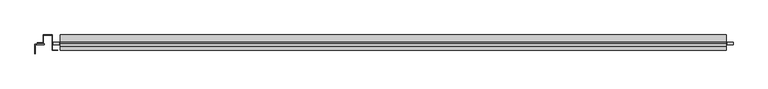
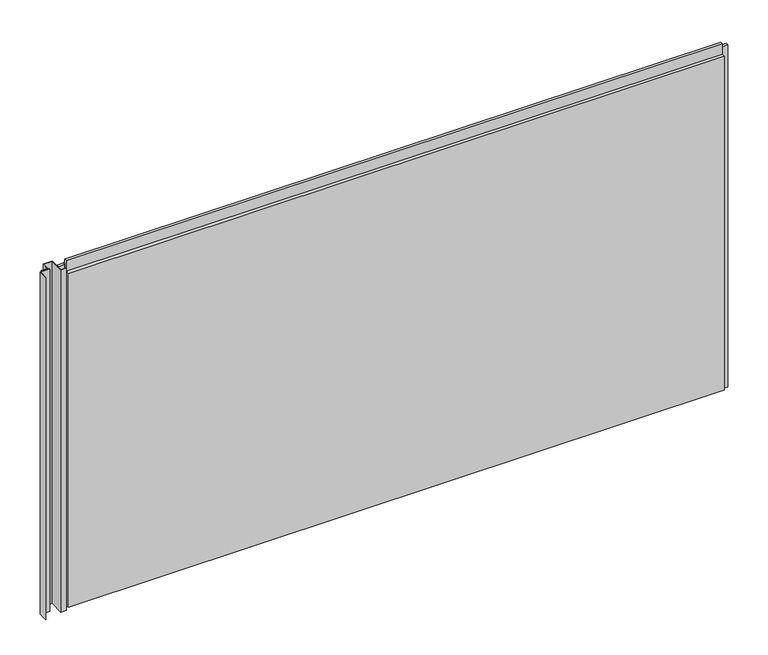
"""IFC4 building model written with IfcOpenShell, lengths in millimetres: plate geometry, Trimo_Qbiss Screen_Normal Panel-HORIZONTAL : HR - B."""

from ifc_helpers import new_model, si_unit, frame, origin, place, context, project, spatial, polyline, outline, extrude, source, transform, mapped, element, save


def plate_f7a88e82(model_context):
    return source(origin(), model_context, "Body", "SweptSolid", [
        extrude(outline(polyline([(-1059.5, 50.0), (-1059.5, 49.2), (-1077.8, 49.2), (-1077.8, 99.1967741), (-1106.2, 99.1967741), (-1106.2, 74.2), (-1126.2, 74.2), (-1126.2, 72.8), (-1112.0, 72.8), (-1112.0, 72.0), (-1127.0, 72.0), (-1127.0, 75.0), (-1107.0, 75.0), (-1107.0, 100.0), (-1077.0, 100.0), (-1077.0, 50.0), (-1059.5, 50.0)])), frame((0.0, 0.0, -1.0), z_axis=(0.0, 0.0, 1.0), x_axis=(1.0, 0.0, 0.0)), (0.0, 0.0, 1.0), 1200.0),
        extrude(outline(polyline([(-1103.0, 71.0), (-1103.0, 68.0), (-1133.2272593, 68.0), (-1133.2272593, 38.5929448), (-1134.0, 38.8), (-1134.0, 68.8), (-1103.8, 68.8), (-1103.8, 70.2), (-1127.0, 70.2), (-1127.0, 71.0), (-1103.0, 71.0)])), frame((0.0, 0.0, -1.0), z_axis=(0.0, 0.0, 1.0), x_axis=(1.0, 0.0, 0.0)), (0.0, 0.0, 1.0), 1200.0),
        extrude(outline(polyline([(-1055.0, 76.5978162), (-1055.0, 67.8978162), (-1074.0, 67.8978162), (-1074.0, 76.5978162), (-1055.0, 76.5978162)])), frame((0.0, 0.0, -1.0), z_axis=(0.0, 0.0, 1.0), x_axis=(1.0, 0.0, 0.0)), (0.0, 0.0, 1.0), 1200.0),
        extrude(outline(polyline([(1125.5, 67.8978162), (1125.5, 76.5978162), (1144.5, 76.5978162), (1144.5, 67.8978162), (1125.5, 67.8978162)])), frame((0.0, 0.0, -1.0), z_axis=(0.0, 0.0, 1.0), x_axis=(1.0, 0.0, 0.0)), (0.0, 0.0, 1.0), 1200.0),
        extrude(outline(polyline([(1122.5, 76.0), (1122.5, 71.0), (-1052.0, 71.0), (-1052.0, 76.0), (1122.5, 76.0)])), frame((0.0, 0.0, 1178.0), z_axis=(0.0, 0.0, 1.0), x_axis=(1.0, 0.0, 0.0)), (0.0, 0.0, 1.0), 21.0),
        extrude(outline(polyline([(71.0, 1177.0), (100.0, 1177.0), (100.0, 0.0), (72.0, 0.0), (72.0, 15.5), (62.0, 15.5), (62.0, 7.0), (50.0, 7.0), (50.0, 1177.0), (63.0, 1177.0), (63.0, 1214.5), (71.0, 1214.5), (71.0, 1177.0)])), frame((-1052.0, 0.0, 0.0), z_axis=(1.0, 0.0, 0.0), x_axis=(0.0, 1.0, 0.0)), (0.0, 0.0, 1.0), 2174.5),
    ])


if __name__ == "__main__":
    model = new_model("IFC4")
    model_context = context("Model", 3, world=origin())
    ifc_project = project(units=[si_unit("LENGTHUNIT", "METRE", prefix="MILLI")], contexts=[model_context])
    site = spatial("IfcSite", under=ifc_project)
    building = spatial("IfcBuilding", under=site)
    placement = place(None, origin())
    plate_shape = plate_f7a88e82(model_context)
    element("IfcPlate", 1, ObjectType="Trimo_Qbiss Screen_Normal Panel-HORIZONTAL : HR - B", at=placement, inside=building, context=model_context, shape_type="MappedRepresentation", body=[
        mapped(plate_shape, transform((0.0, 0.0, 0.0), x_axis=(1.0, 0.0, 0.0), y_axis=(0.0, 1.0, 0.0), z_axis=(0.0, 0.0, 1.0))),
    ])
    save(model, "model.ifc")
